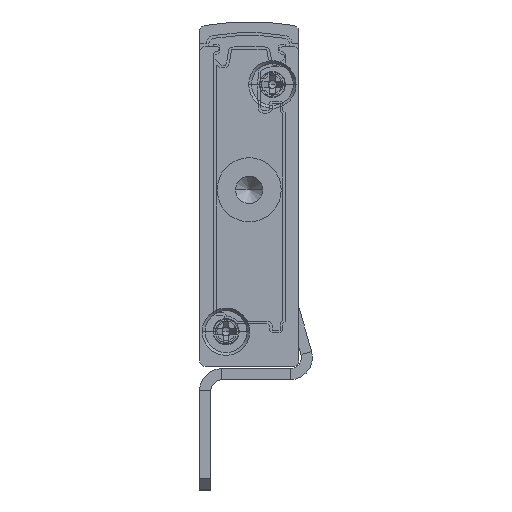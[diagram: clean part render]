
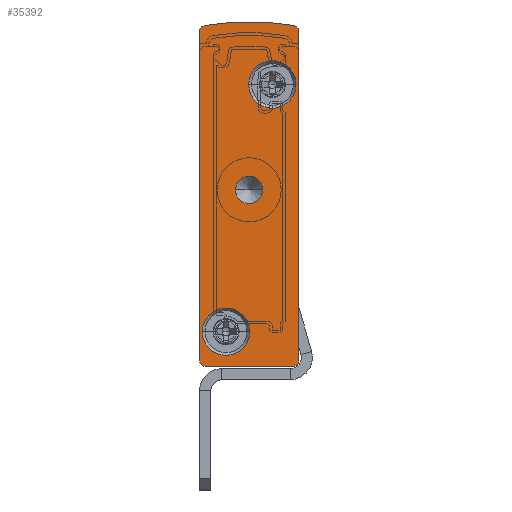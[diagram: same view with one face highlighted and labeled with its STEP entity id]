
A CAD part, front view. The second image highlights one B-rep face of the part: STEP entity #35392.
In plain terms, the highlighted planar face has unit normal (0, -1, 0).
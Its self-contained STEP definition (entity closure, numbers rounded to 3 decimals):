
#356 = CIRCLE ( 'NONE', #463, 0.5 ) ;
#463 = AXIS2_PLACEMENT_3D ( 'NONE', #22161, #13504, #18954 ) ;
#552 = CARTESIAN_POINT ( 'NONE',  ( -0.5, -2.5, 0.5 ) ) ;
#685 = DIRECTION ( 'NONE',  ( -1., 0., 0. ) ) ;
#781 = CARTESIAN_POINT ( 'NONE',  ( 0., -2.5, 30.402 ) ) ;
#882 = VERTEX_POINT ( 'NONE', #6370 ) ;
#1702 = CARTESIAN_POINT ( 'NONE',  ( -0.5, -2.5, 0. ) ) ;
#2311 = ORIENTED_EDGE ( 'NONE', *, *, #17517, .F. ) ;
#2496 = CARTESIAN_POINT ( 'NONE',  ( -0.25, -2.5, 25.55 ) ) ;
#2664 = CARTESIAN_POINT ( 'NONE',  ( -8.75, -2.5, 3.15 ) ) ;
#2778 = VERTEX_POINT ( 'NONE', #35631 ) ;
#2945 = DIRECTION ( 'NONE',  ( 0., -1., 0. ) ) ;
#3078 = DIRECTION ( 'NONE',  ( 1., 0., 0. ) ) ;
#4147 = CARTESIAN_POINT ( 'NONE',  ( -2.4, -2.5, 25.55 ) ) ;
#4280 = DIRECTION ( 'NONE',  ( 1., 0., 0. ) ) ;
#5032 = FACE_BOUND ( 'NONE', #16501, .T. ) ;
#5301 = LINE ( 'NONE', #9071, #27617 ) ;
#5342 = CARTESIAN_POINT ( 'NONE',  ( -4.5, -2.5, 7.592 ) ) ;
#5488 = AXIS2_PLACEMENT_3D ( 'NONE', #32207, #14777, #35127 ) ;
#5531 = VERTEX_POINT ( 'NONE', #18019 ) ;
#5642 = AXIS2_PLACEMENT_3D ( 'NONE', #17291, #2945, #37639 ) ;
#6003 = VERTEX_POINT ( 'NONE', #18955 ) ;
#6088 = EDGE_LOOP ( 'NONE', ( #8384, #36244 ) ) ;
#6370 = CARTESIAN_POINT ( 'NONE',  ( 0., -2.5, 0.5 ) ) ;
#6833 = CARTESIAN_POINT ( 'NONE',  ( -8.5, -2.5, 0. ) ) ;
#8138 = ORIENTED_EDGE ( 'NONE', *, *, #13461, .F. ) ;
#8317 = ORIENTED_EDGE ( 'NONE', *, *, #37385, .F. ) ;
#8384 = ORIENTED_EDGE ( 'NONE', *, *, #14088, .T. ) ;
#8561 = EDGE_CURVE ( 'NONE', #17382, #29969, #23530, .T. ) ;
#8599 = CARTESIAN_POINT ( 'NONE',  ( -5.75, -2.5, 16. ) ) ;
#8953 = CARTESIAN_POINT ( 'NONE',  ( -6.6, -2.5, 3.15 ) ) ;
#9071 = CARTESIAN_POINT ( 'NONE',  ( -8.5, -2.5, 0. ) ) ;
#9251 = VERTEX_POINT ( 'NONE', #1702 ) ;
#9780 = CARTESIAN_POINT ( 'NONE',  ( -9., -2.5, 30.402 ) ) ;
#10732 = VERTEX_POINT ( 'NONE', #8599 ) ;
#10996 = CARTESIAN_POINT ( 'NONE',  ( -8.5, -2.5, 0.5 ) ) ;
#11220 = ORIENTED_EDGE ( 'NONE', *, *, #24429, .F. ) ;
#11332 = CIRCLE ( 'NONE', #5642, 2.15 ) ;
#11443 = DIRECTION ( 'NONE',  ( 1., 0., 0. ) ) ;
#12693 = DIRECTION ( 'NONE',  ( -1., 0., 0. ) ) ;
#12754 = FACE_BOUND ( 'NONE', #23326, .T. ) ;
#12774 = DIRECTION ( 'NONE',  ( 0., 1., 0. ) ) ;
#12922 = DIRECTION ( 'NONE',  ( 0., -1., 0. ) ) ;
#13461 = EDGE_CURVE ( 'NONE', #29969, #2778, #19606, .T. ) ;
#13504 = DIRECTION ( 'NONE',  ( 0., 1., 0. ) ) ;
#13829 = CARTESIAN_POINT ( 'NONE',  ( -3.25, -2.5, 16. ) ) ;
#13887 = VERTEX_POINT ( 'NONE', #2664 ) ;
#14088 = EDGE_CURVE ( 'NONE', #10732, #27001, #22237, .T. ) ;
#14204 = CIRCLE ( 'NONE', #20036, 0.5 ) ;
#14233 = VERTEX_POINT ( 'NONE', #2496 ) ;
#14334 = CARTESIAN_POINT ( 'NONE',  ( -2.4, -2.5, 25.55 ) ) ;
#14777 = DIRECTION ( 'NONE',  ( 0., 1., 0. ) ) ;
#15840 = DIRECTION ( 'NONE',  ( -1., 0., 0. ) ) ;
#15941 = EDGE_CURVE ( 'NONE', #2778, #20304, #37271, .T. ) ;
#16041 = AXIS2_PLACEMENT_3D ( 'NONE', #32596, #26774, #685 ) ;
#16242 = EDGE_CURVE ( 'NONE', #882, #9251, #14204, .T. ) ;
#16501 = EDGE_LOOP ( 'NONE', ( #24109, #8317 ) ) ;
#17124 = CIRCLE ( 'NONE', #21771, 2.15 ) ;
#17217 = DIRECTION ( 'NONE',  ( -1., 0., 0. ) ) ;
#17291 = CARTESIAN_POINT ( 'NONE',  ( -6.6, -2.5, 3.15 ) ) ;
#17382 = VERTEX_POINT ( 'NONE', #6833 ) ;
#17517 = EDGE_CURVE ( 'NONE', #25279, #882, #30382, .T. ) ;
#17857 = DIRECTION ( 'NONE',  ( 0., 0., -1. ) ) ;
#17974 = EDGE_CURVE ( 'NONE', #27001, #10732, #37124, .T. ) ;
#18019 = CARTESIAN_POINT ( 'NONE',  ( -4.45, -2.5, 3.15 ) ) ;
#18333 = PLANE ( 'NONE',  #16041 ) ;
#18620 = FACE_OUTER_BOUND ( 'NONE', #29366, .T. ) ;
#18639 = ORIENTED_EDGE ( 'NONE', *, *, #31133, .F. ) ;
#18842 = AXIS2_PLACEMENT_3D ( 'NONE', #5342, #29096, #17217 ) ;
#18954 = DIRECTION ( 'NONE',  ( -1., 0., 0. ) ) ;
#18955 = CARTESIAN_POINT ( 'NONE',  ( -4.55, -2.5, 25.55 ) ) ;
#19473 = CIRCLE ( 'NONE', #18842, 23.658 ) ;
#19535 = DIRECTION ( 'NONE',  ( 0., 0., 1. ) ) ;
#19606 = LINE ( 'NONE', #9780, #26467 ) ;
#20036 = AXIS2_PLACEMENT_3D ( 'NONE', #552, #12774, #29801 ) ;
#20224 = DIRECTION ( 'NONE',  ( -1., 0., 0. ) ) ;
#20304 = VERTEX_POINT ( 'NONE', #30415 ) ;
#20475 = ORIENTED_EDGE ( 'NONE', *, *, #27176, .F. ) ;
#20537 = ORIENTED_EDGE ( 'NONE', *, *, #15941, .F. ) ;
#21742 = AXIS2_PLACEMENT_3D ( 'NONE', #27207, #33014, #12693 ) ;
#21771 = AXIS2_PLACEMENT_3D ( 'NONE', #8953, #30052, #3078 ) ;
#22161 = CARTESIAN_POINT ( 'NONE',  ( -0.5, -2.5, 30.402 ) ) ;
#22237 = CIRCLE ( 'NONE', #33084, 1.25 ) ;
#22811 = ORIENTED_EDGE ( 'NONE', *, *, #22854, .F. ) ;
#22854 = EDGE_CURVE ( 'NONE', #9251, #17382, #5301, .T. ) ;
#23326 = EDGE_LOOP ( 'NONE', ( #18639, #36580 ) ) ;
#23530 = CIRCLE ( 'NONE', #31072, 0.5 ) ;
#23876 = CARTESIAN_POINT ( 'NONE',  ( 0., -2.5, 30.402 ) ) ;
#24109 = ORIENTED_EDGE ( 'NONE', *, *, #25135, .F. ) ;
#24295 = CIRCLE ( 'NONE', #37281, 2.15 ) ;
#24429 = EDGE_CURVE ( 'NONE', #26949, #25279, #356, .T. ) ;
#24917 = CARTESIAN_POINT ( 'NONE',  ( -0.408, -2.5, 30.893 ) ) ;
#25135 = EDGE_CURVE ( 'NONE', #5531, #13887, #11332, .T. ) ;
#25279 = VERTEX_POINT ( 'NONE', #781 ) ;
#26188 = DIRECTION ( 'NONE',  ( 0., -1., 0. ) ) ;
#26467 = VECTOR ( 'NONE', #19535, 1000. ) ;
#26774 = DIRECTION ( 'NONE',  ( 0., 1., 0. ) ) ;
#26949 = VERTEX_POINT ( 'NONE', #24917 ) ;
#27001 = VERTEX_POINT ( 'NONE', #13829 ) ;
#27176 = EDGE_CURVE ( 'NONE', #20304, #26949, #19473, .T. ) ;
#27207 = CARTESIAN_POINT ( 'NONE',  ( -8.5, -2.5, 30.402 ) ) ;
#27617 = VECTOR ( 'NONE', #20224, 1000. ) ;
#27622 = CARTESIAN_POINT ( 'NONE',  ( -4.5, -2.5, 16. ) ) ;
#27993 = ORIENTED_EDGE ( 'NONE', *, *, #16242, .F. ) ;
#28641 = VECTOR ( 'NONE', #17857, 1000. ) ;
#28705 = DIRECTION ( 'NONE',  ( 0., 1., 0. ) ) ;
#29096 = DIRECTION ( 'NONE',  ( 0., 1., 0. ) ) ;
#29340 = EDGE_CURVE ( 'NONE', #6003, #14233, #29760, .T. ) ;
#29366 = EDGE_LOOP ( 'NONE', ( #20537, #8138, #35982, #22811, #27993, #2311, #11220, #20475 ) ) ;
#29760 = CIRCLE ( 'NONE', #30156, 2.15 ) ;
#29801 = DIRECTION ( 'NONE',  ( -1., 0., 0. ) ) ;
#29969 = VERTEX_POINT ( 'NONE', #31961 ) ;
#30052 = DIRECTION ( 'NONE',  ( 0., -1., 0. ) ) ;
#30113 = DIRECTION ( 'NONE',  ( 0., 1., 0. ) ) ;
#30156 = AXIS2_PLACEMENT_3D ( 'NONE', #14334, #26188, #11443 ) ;
#30382 = LINE ( 'NONE', #23876, #28641 ) ;
#30415 = CARTESIAN_POINT ( 'NONE',  ( -8.592, -2.5, 30.893 ) ) ;
#31072 = AXIS2_PLACEMENT_3D ( 'NONE', #10996, #28705, #31304 ) ;
#31133 = EDGE_CURVE ( 'NONE', #14233, #6003, #24295, .T. ) ;
#31304 = DIRECTION ( 'NONE',  ( -1., 0., 0. ) ) ;
#31961 = CARTESIAN_POINT ( 'NONE',  ( -9., -2.5, 0.5 ) ) ;
#32207 = CARTESIAN_POINT ( 'NONE',  ( -4.5, -2.5, 16. ) ) ;
#32596 = CARTESIAN_POINT ( 'NONE',  ( -8.5, -2.5, 30.402 ) ) ;
#33014 = DIRECTION ( 'NONE',  ( 0., 1., 0. ) ) ;
#33084 = AXIS2_PLACEMENT_3D ( 'NONE', #27622, #30113, #15840 ) ;
#35005 = FACE_BOUND ( 'NONE', #6088, .T. ) ;
#35127 = DIRECTION ( 'NONE',  ( -1., 0., 0. ) ) ;
#35392 = ADVANCED_FACE ( 'NONE', ( #12754, #5032, #18620, #35005 ), #18333, .F. ) ;
#35631 = CARTESIAN_POINT ( 'NONE',  ( -9., -2.5, 30.402 ) ) ;
#35982 = ORIENTED_EDGE ( 'NONE', *, *, #8561, .F. ) ;
#36244 = ORIENTED_EDGE ( 'NONE', *, *, #17974, .T. ) ;
#36580 = ORIENTED_EDGE ( 'NONE', *, *, #29340, .F. ) ;
#37124 = CIRCLE ( 'NONE', #5488, 1.25 ) ;
#37271 = CIRCLE ( 'NONE', #21742, 0.5 ) ;
#37281 = AXIS2_PLACEMENT_3D ( 'NONE', #4147, #12922, #4280 ) ;
#37385 = EDGE_CURVE ( 'NONE', #13887, #5531, #17124, .T. ) ;
#37639 = DIRECTION ( 'NONE',  ( 1., 0., 0. ) ) ;
